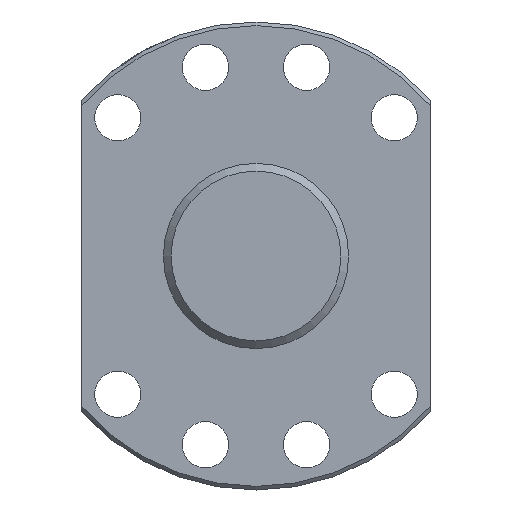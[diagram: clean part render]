
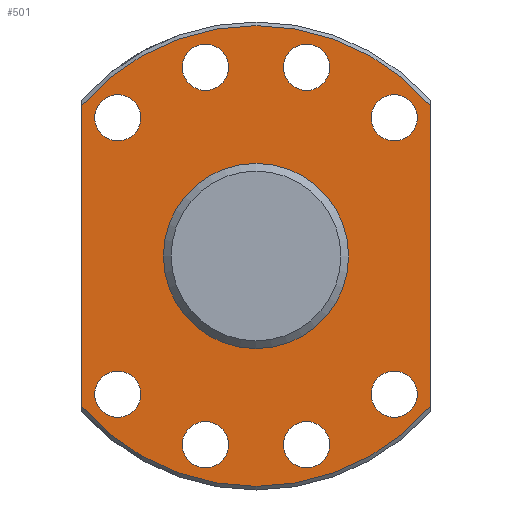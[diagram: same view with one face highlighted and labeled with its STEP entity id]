
A CAD part, left-side view. The second image highlights one B-rep face of the part: STEP entity #501.
In plain terms, the highlighted planar face has unit normal (-1, 0, 0).
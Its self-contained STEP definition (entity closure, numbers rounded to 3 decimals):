
#22=LINE('',#869,#30);
#23=LINE('',#870,#31);
#30=VECTOR('',#679,1000.);
#31=VECTOR('',#680,1000.);
#108=ORIENTED_EDGE('',*,*,#214,.F.);
#109=ORIENTED_EDGE('',*,*,#215,.F.);
#110=ORIENTED_EDGE('',*,*,#201,.F.);
#111=ORIENTED_EDGE('',*,*,#216,.F.);
#112=ORIENTED_EDGE('',*,*,#217,.T.);
#113=ORIENTED_EDGE('',*,*,#218,.T.);
#114=ORIENTED_EDGE('',*,*,#219,.T.);
#115=ORIENTED_EDGE('',*,*,#220,.T.);
#116=ORIENTED_EDGE('',*,*,#221,.T.);
#117=ORIENTED_EDGE('',*,*,#222,.T.);
#118=ORIENTED_EDGE('',*,*,#223,.T.);
#119=ORIENTED_EDGE('',*,*,#224,.T.);
#120=ORIENTED_EDGE('',*,*,#197,.F.);
#197=EDGE_CURVE('',#253,#253,#301,.F.);
#201=EDGE_CURVE('',#257,#258,#303,.T.);
#214=EDGE_CURVE('',#268,#269,#308,.T.);
#215=EDGE_CURVE('',#258,#268,#22,.T.);
#216=EDGE_CURVE('',#269,#257,#23,.T.);
#217=EDGE_CURVE('',#270,#270,#309,.T.);
#218=EDGE_CURVE('',#271,#271,#310,.T.);
#219=EDGE_CURVE('',#272,#272,#311,.T.);
#220=EDGE_CURVE('',#273,#273,#312,.T.);
#221=EDGE_CURVE('',#274,#274,#313,.T.);
#222=EDGE_CURVE('',#275,#275,#314,.T.);
#223=EDGE_CURVE('',#276,#276,#315,.T.);
#224=EDGE_CURVE('',#277,#277,#316,.T.);
#253=VERTEX_POINT('',#798);
#257=VERTEX_POINT('',#819);
#258=VERTEX_POINT('',#821);
#268=VERTEX_POINT('',#867);
#269=VERTEX_POINT('',#868);
#270=VERTEX_POINT('',#872);
#271=VERTEX_POINT('',#874);
#272=VERTEX_POINT('',#876);
#273=VERTEX_POINT('',#878);
#274=VERTEX_POINT('',#880);
#275=VERTEX_POINT('',#882);
#276=VERTEX_POINT('',#884);
#277=VERTEX_POINT('',#886);
#301=CIRCLE('',#562,18.);
#303=CIRCLE('',#565,44.8);
#308=CIRCLE('',#574,44.8);
#309=CIRCLE('',#575,4.5);
#310=CIRCLE('',#576,4.5);
#311=CIRCLE('',#577,4.5);
#312=CIRCLE('',#578,4.5);
#313=CIRCLE('',#579,4.5);
#314=CIRCLE('',#580,4.5);
#315=CIRCLE('',#581,4.5);
#316=CIRCLE('',#582,4.5);
#350=EDGE_LOOP('',(#108,#109,#110,#111));
#351=EDGE_LOOP('',(#112));
#352=EDGE_LOOP('',(#113));
#353=EDGE_LOOP('',(#114));
#354=EDGE_LOOP('',(#115));
#355=EDGE_LOOP('',(#116));
#356=EDGE_LOOP('',(#117));
#357=EDGE_LOOP('',(#118));
#358=EDGE_LOOP('',(#119));
#359=EDGE_LOOP('',(#120));
#424=FACE_BOUND('',#350,.T.);
#425=FACE_BOUND('',#351,.T.);
#426=FACE_BOUND('',#352,.T.);
#427=FACE_BOUND('',#353,.T.);
#428=FACE_BOUND('',#354,.T.);
#429=FACE_BOUND('',#355,.T.);
#430=FACE_BOUND('',#356,.T.);
#431=FACE_BOUND('',#357,.T.);
#432=FACE_BOUND('',#358,.T.);
#433=FACE_BOUND('',#359,.T.);
#484=PLANE('',#573);
#501=ADVANCED_FACE('',(#424,#425,#426,#427,#428,#429,#430,#431,#432,#433),
#484,.F.);
#562=AXIS2_PLACEMENT_3D('',#797,#649,#650);
#565=AXIS2_PLACEMENT_3D('',#820,#655,#656);
#573=AXIS2_PLACEMENT_3D('',#865,#675,#676);
#574=AXIS2_PLACEMENT_3D('',#866,#677,#678);
#575=AXIS2_PLACEMENT_3D('',#871,#681,#682);
#576=AXIS2_PLACEMENT_3D('',#873,#683,#684);
#577=AXIS2_PLACEMENT_3D('',#875,#685,#686);
#578=AXIS2_PLACEMENT_3D('',#877,#687,#688);
#579=AXIS2_PLACEMENT_3D('',#879,#689,#690);
#580=AXIS2_PLACEMENT_3D('',#881,#691,#692);
#581=AXIS2_PLACEMENT_3D('',#883,#693,#694);
#582=AXIS2_PLACEMENT_3D('',#885,#695,#696);
#649=DIRECTION('',(1.,0.,0.));
#650=DIRECTION('',(0.,0.,-1.));
#655=DIRECTION('',(1.,0.,0.));
#656=DIRECTION('',(0.,0.,-1.));
#675=DIRECTION('',(1.,0.,0.));
#676=DIRECTION('',(0.,0.,-1.));
#677=DIRECTION('',(1.,0.,0.));
#678=DIRECTION('',(0.,0.,-1.));
#679=DIRECTION('',(0.,1.,0.));
#680=DIRECTION('',(0.,-1.,0.));
#681=DIRECTION('',(1.,0.,0.));
#682=DIRECTION('',(0.,0.,-1.));
#683=DIRECTION('',(1.,0.,0.));
#684=DIRECTION('',(0.,0.,-1.));
#685=DIRECTION('',(1.,0.,0.));
#686=DIRECTION('',(0.,0.,-1.));
#687=DIRECTION('',(1.,0.,0.));
#688=DIRECTION('',(0.,0.,-1.));
#689=DIRECTION('',(1.,0.,0.));
#690=DIRECTION('',(0.,0.,-1.));
#691=DIRECTION('',(1.,0.,0.));
#692=DIRECTION('',(0.,0.,-1.));
#693=DIRECTION('',(1.,0.,0.));
#694=DIRECTION('',(0.,0.,-1.));
#695=DIRECTION('',(1.,0.,0.));
#696=DIRECTION('',(0.,0.,-1.));
#797=CARTESIAN_POINT('',(0.,0.,0.));
#798=CARTESIAN_POINT('',(0.,0.,-18.));
#819=CARTESIAN_POINT('',(0.,-29.173,34.));
#820=CARTESIAN_POINT('',(0.,0.,0.));
#821=CARTESIAN_POINT('',(0.,-29.173,-34.));
#865=CARTESIAN_POINT('',(0.,0.,0.));
#866=CARTESIAN_POINT('',(0.,0.,0.));
#867=CARTESIAN_POINT('',(0.,29.173,-34.));
#868=CARTESIAN_POINT('',(0.,29.173,34.));
#869=CARTESIAN_POINT('',(0.,-54.6,-34.));
#870=CARTESIAN_POINT('',(0.,54.6,34.));
#871=CARTESIAN_POINT('',(0.,-26.87,26.87));
#872=CARTESIAN_POINT('',(0.,-26.87,22.37));
#873=CARTESIAN_POINT('',(0.,26.87,-26.87));
#874=CARTESIAN_POINT('',(0.,26.87,-31.37));
#875=CARTESIAN_POINT('',(0.,-36.705,9.835));
#876=CARTESIAN_POINT('',(0.,-36.705,5.335));
#877=CARTESIAN_POINT('',(0.,36.705,-9.835));
#878=CARTESIAN_POINT('',(0.,36.705,-14.335));
#879=CARTESIAN_POINT('',(0.,-36.705,-9.835));
#880=CARTESIAN_POINT('',(0.,-36.705,-14.335));
#881=CARTESIAN_POINT('',(0.,36.705,9.835));
#882=CARTESIAN_POINT('',(0.,36.705,5.335));
#883=CARTESIAN_POINT('',(0.,-26.87,-26.87));
#884=CARTESIAN_POINT('',(0.,-26.87,-31.37));
#885=CARTESIAN_POINT('',(0.,26.87,26.87));
#886=CARTESIAN_POINT('',(0.,26.87,22.37));
